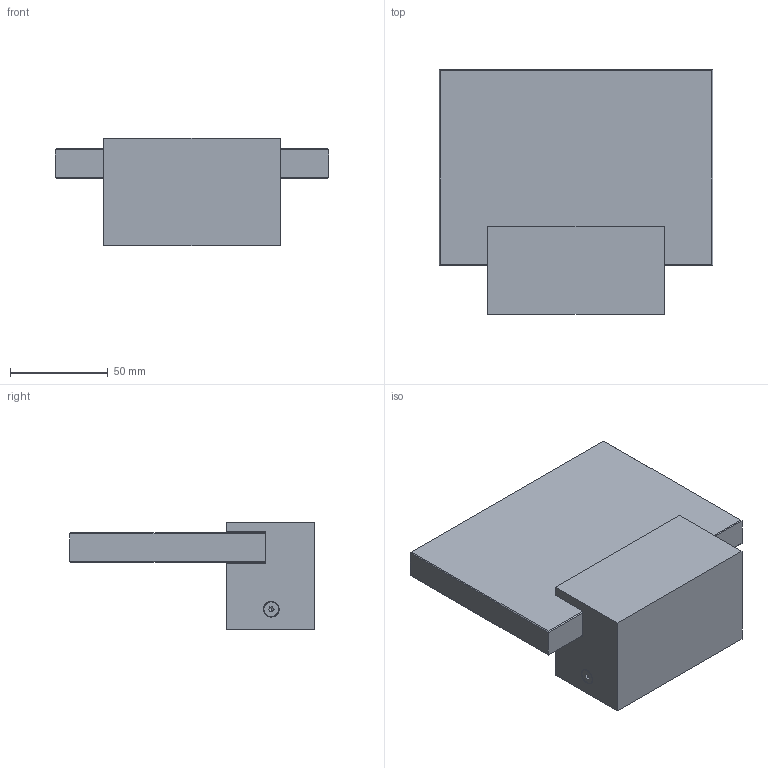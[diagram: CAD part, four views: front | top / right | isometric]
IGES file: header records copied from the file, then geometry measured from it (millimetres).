
Start section: SolidWorks IGES file using analytic representation for surfaces
Global section: file name: \\srvficheros\grupos\DISENYO\DESARROLLO DE PRODUCTO\_3D_WEB\CUSTOM-A3033101\CUSTOM-A3033101.IGS; native system: SolidWorks 2025; preprocessor: SolidWorks 2025; author: d.pons; date: 260113.104401; units: millimetre
Bounding box: 140 x 125 x 55 mm (x, y, z)
Surface area: 72050.6 mm2 (no closed solid volume)
Topology: 0 solids, 0 shells, 154 faces, 1752 edges, 1748 vertices
Faces by surface type: bspline 87, revolution 67
